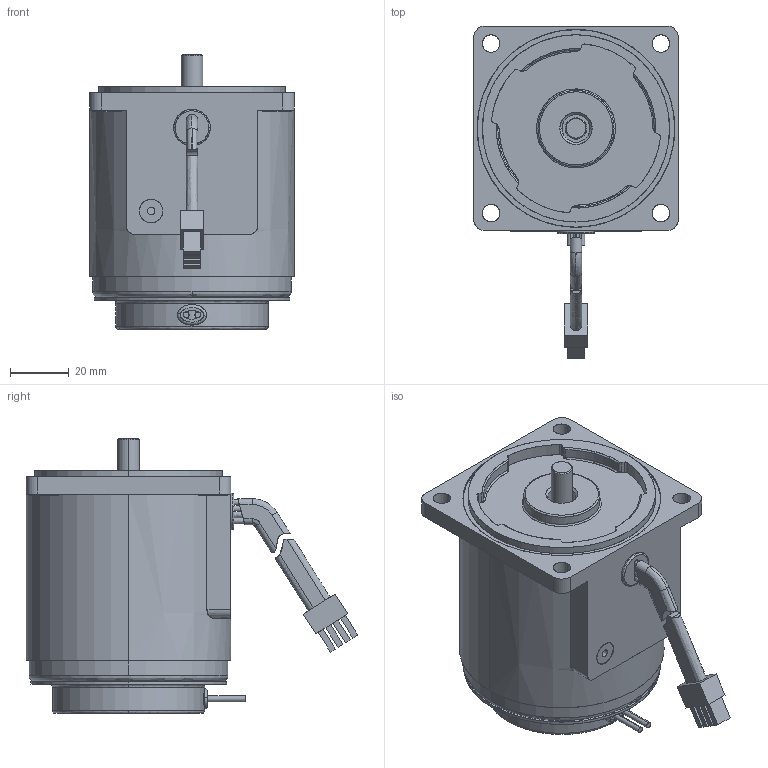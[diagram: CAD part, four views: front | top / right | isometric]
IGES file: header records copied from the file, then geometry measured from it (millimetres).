
Start section: SolidWorks IGES file using analytic representation for surfaces
Global section: file name: \\楷备家烹钦辑滚\data (D)\档搁 枚\权其捞瘤 档搁\7. SPEED INDUCTION\70\10W\(7-10) 7SDG∴-10G.IGS; native system: SolidWorks 2007; preprocessor: SolidWorks 2007; author: user; date: 150702.111336; units: millimetre
Bounding box: 70 x 113.4 x 94 mm (x, y, z)
Surface area: 68010.1 mm2 (no closed solid volume)
Topology: 0 solids, 0 shells, 310 faces, 5412 edges, 5411 vertices
Faces by surface type: bspline 185, revolution 125
